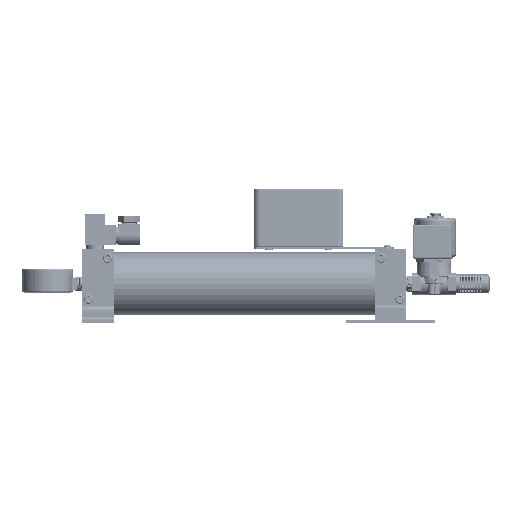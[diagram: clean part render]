
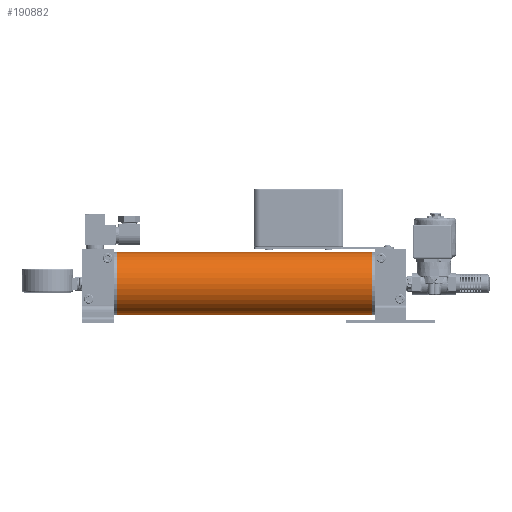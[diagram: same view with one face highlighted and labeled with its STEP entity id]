
A CAD part, left-side view. The second image highlights one B-rep face of the part: STEP entity #190882.
In plain terms, the highlighted cylindrical face has radius 31.75 mm (diameter 63.5 mm), a partial arc.
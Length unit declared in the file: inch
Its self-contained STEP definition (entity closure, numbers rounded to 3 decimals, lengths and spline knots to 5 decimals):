
#10784 = CIRCLE ( 'NONE', #443180, 1.25 ) ;
#28810 = DIRECTION ( 'NONE',  ( 0., 0., 1. ) ) ;
#31504 = CARTESIAN_POINT ( 'NONE',  ( -0.85, -0.125, -2.65 ) ) ;
#37840 = ORIENTED_EDGE ( 'NONE', *, *, #249559, .T. ) ;
#40938 = DIRECTION ( 'NONE',  ( 0., -1., 0. ) ) ;
#80045 = VERTEX_POINT ( 'NONE', #237938 ) ;
#93262 = ORIENTED_EDGE ( 'NONE', *, *, #348341, .F. ) ;
#93982 = CARTESIAN_POINT ( 'NONE',  ( -0.85, -0.125, -1.4 ) ) ;
#96215 = FACE_OUTER_BOUND ( 'NONE', #292581, .T. ) ;
#120105 = CARTESIAN_POINT ( 'NONE',  ( -0.85, -10.235, -0.15 ) ) ;
#136965 = CARTESIAN_POINT ( 'NONE',  ( -0.85, -10.235, -2.65 ) ) ;
#154052 = LINE ( 'NONE', #194433, #474918 ) ;
#182077 = VECTOR ( 'NONE', #253676, 39.37008 ) ;
#182748 = CARTESIAN_POINT ( 'NONE',  ( -0.85, -0.125, -1.4 ) ) ;
#184457 = ORIENTED_EDGE ( 'NONE', *, *, #375435, .F. ) ;
#190882 = ADVANCED_FACE ( 'NONE', ( #96215 ), #230011, .T. ) ;
#194433 = CARTESIAN_POINT ( 'NONE',  ( -0.85, -0.125, -0.15 ) ) ;
#204257 = DIRECTION ( 'NONE',  ( 0., -1., 0. ) ) ;
#229181 = VERTEX_POINT ( 'NONE', #136965 ) ;
#230011 = CYLINDRICAL_SURFACE ( 'NONE', #245539, 1.25 ) ;
#237938 = CARTESIAN_POINT ( 'NONE',  ( -0.85, -0.125, -0.15 ) ) ;
#243224 = DIRECTION ( 'NONE',  ( 0., 0., 1. ) ) ;
#245539 = AXIS2_PLACEMENT_3D ( 'NONE', #182748, #40938, #308241 ) ;
#247439 = VERTEX_POINT ( 'NONE', #120105 ) ;
#249559 = EDGE_CURVE ( 'NONE', #229181, #247439, #10784, .T. ) ;
#253676 = DIRECTION ( 'NONE',  ( 0., -1., 0. ) ) ;
#254270 = ORIENTED_EDGE ( 'NONE', *, *, #307457, .T. ) ;
#281295 = LINE ( 'NONE', #400417, #182077 ) ;
#292581 = EDGE_LOOP ( 'NONE', ( #93262, #184457, #254270, #37840 ) ) ;
#307457 = EDGE_CURVE ( 'NONE', #465120, #229181, #281295, .T. ) ;
#308241 = DIRECTION ( 'NONE',  ( 0., 0., -1. ) ) ;
#316112 = CIRCLE ( 'NONE', #470889, 1.25 ) ;
#348341 = EDGE_CURVE ( 'NONE', #80045, #247439, #154052, .T. ) ;
#375435 = EDGE_CURVE ( 'NONE', #465120, #80045, #316112, .T. ) ;
#391573 = CARTESIAN_POINT ( 'NONE',  ( -0.85, -10.235, -1.4 ) ) ;
#400417 = CARTESIAN_POINT ( 'NONE',  ( -0.85, -0.125, -2.65 ) ) ;
#403666 = DIRECTION ( 'NONE',  ( 0., 1., 0. ) ) ;
#425878 = DIRECTION ( 'NONE',  ( 0., 1., 0. ) ) ;
#443180 = AXIS2_PLACEMENT_3D ( 'NONE', #391573, #425878, #243224 ) ;
#465120 = VERTEX_POINT ( 'NONE', #31504 ) ;
#470889 = AXIS2_PLACEMENT_3D ( 'NONE', #93982, #403666, #28810 ) ;
#474918 = VECTOR ( 'NONE', #204257, 39.37008 ) ;
